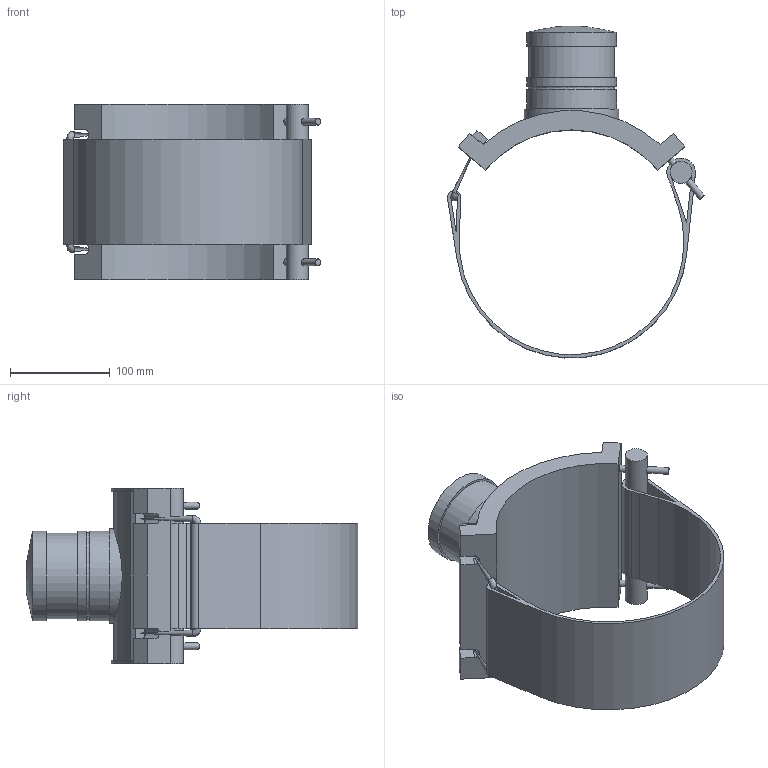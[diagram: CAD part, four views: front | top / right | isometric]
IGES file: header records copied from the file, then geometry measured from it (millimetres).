
Global section: file name: 496804225025.ipt; native system: Autodesk Inventor 2015; preprocessor: unknown; author: KIM; date: 20171106.094412; units: millimetre
Bounding box: 257.63 x 332.35 x 176 mm (x, y, z)
Volume: 1600356.2 mm3; surface area: 290908.2 mm2
Topology: 2 solids, 2 shells, 72 faces, 185 edges, 120 vertices
Faces by surface type: plane 43, cylinder 19, revolution 9, sphere 1
Full cylindrical faces by diameter (mm): 6.75 x6, 21.808 x1, 85.5 x1, 90 x3, 94.5 x1
